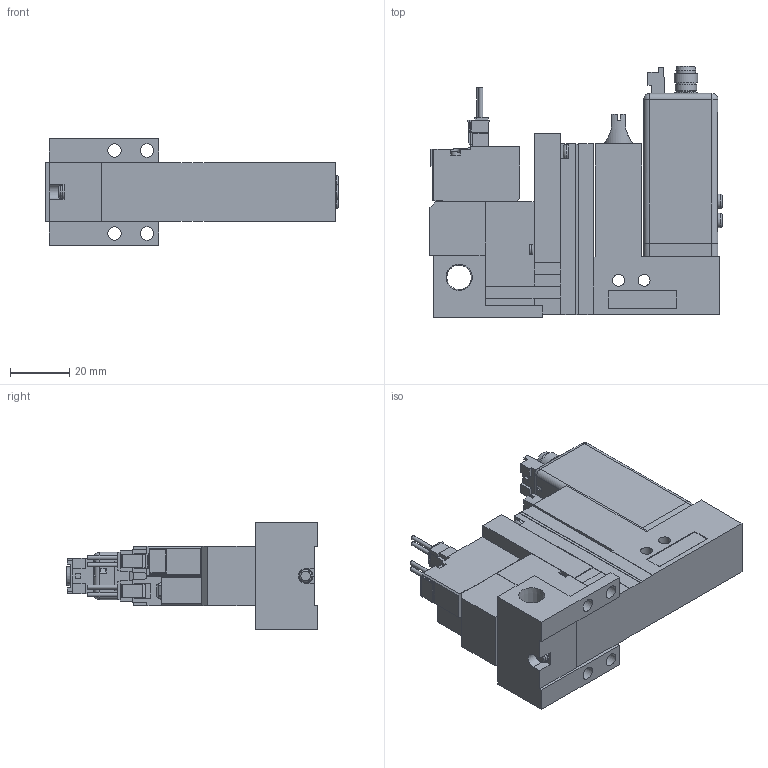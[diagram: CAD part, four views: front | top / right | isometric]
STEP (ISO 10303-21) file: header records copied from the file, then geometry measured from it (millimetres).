
FILE_DESCRIPTION(('STEP AP203'),'1');
FILE_NAME('22_22PLC5ALR101.stp','2025-06-05T08:47:14',(' '),(' '),'Spatial InterOp 3D',' ',' ');
FILE_SCHEMA(('CONFIG_CONTROL_DESIGN'));
Length unit declared in the file: millimetre
Products named in the file (5): BMC22M※※※※22_22PLC5ALR101; Solenoid valve A; Unit LC; Base MR10R; MVS-202
Assembly tree (4 placements, depth 2):
  BMC22M※※※※22_22PLC5ALR101
    Solenoid valve A
    Unit LC
    Base MR10R
    MVS-202
Bounding box: 98.5 x 84.6 x 36 mm (x, y, z)
Volume: 114453.1 mm3; surface area: 33934.5 mm2
Topology: 4 solids, 8 shells, 825 faces, 2155 edges, 1406 vertices
Faces by surface type: plane 692, cylinder 103, cone 18, torus 8, sphere 4
Full cylindrical faces by diameter (mm): 1 x4, 1.4 x4, 1.5 x1, 2.5 x1, 3 x4, 3.5 x4, 3.6 x1, 4 x2, 4.134 x1, 4.5 x8, 4.8 x3, 5 x2, 5.2 x1, 5.8 x2, 6 x2, 6.5 x3, 6.6 x1, 7 x1, 7.2 x1, 7.9 x1, 8 x2, 8.279 x1
Entity records: 24852 total; most frequent: CARTESIAN_POINT 4522, ORIENTED_EDGE 4100, DIRECTION 3962, EDGE_CURVE 2050, LINE 1760, VECTOR 1760, VERTEX_POINT 1385, AXIS2_PLACEMENT_3D 1101
